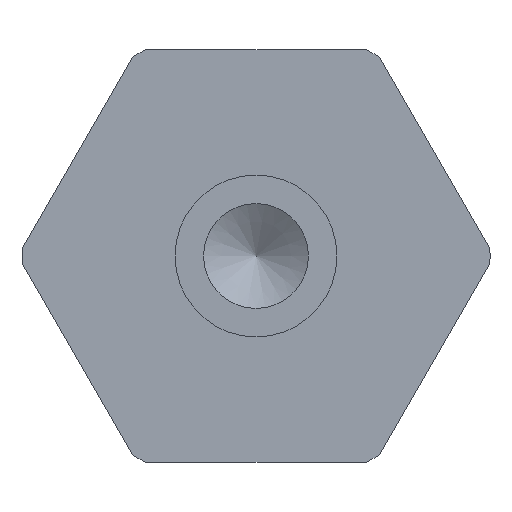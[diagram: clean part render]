
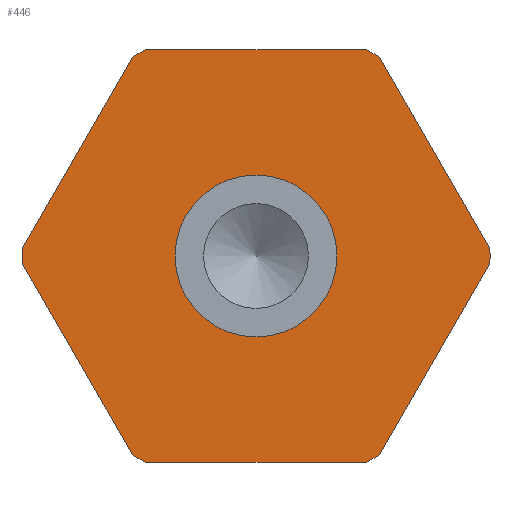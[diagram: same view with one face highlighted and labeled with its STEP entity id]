
A CAD part, left-side view. The second image highlights one B-rep face of the part: STEP entity #446.
In plain terms, the highlighted planar face has unit normal (-1, 0, 0).
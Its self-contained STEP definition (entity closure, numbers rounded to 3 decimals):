
#19=LINE($,#711,#43);
#22=LINE($,#717,#46);
#25=LINE($,#723,#49);
#28=LINE($,#729,#52);
#31=LINE($,#735,#55);
#33=LINE($,#743,#57);
#43=VECTOR($,#567,3.394);
#46=VECTOR($,#572,3.394);
#49=VECTOR($,#577,3.394);
#52=VECTOR($,#582,3.394);
#55=VECTOR($,#587,3.394);
#57=VECTOR($,#595,3.394);
#67=PLANE($,#489);
#79=FACE_BOUND($,#147,.T.);
#80=FACE_BOUND($,#148,.T.);
#147=EDGE_LOOP($,(#339));
#148=EDGE_LOOP($,(#340,#341,#342,#343,#344,#345,#346,#347,#348,#349,#350,
#351));
#191=CIRCLE($,#490,1.245);
#192=CIRCLE($,#491,3.6);
#193=CIRCLE($,#492,3.6);
#194=CIRCLE($,#493,3.6);
#195=CIRCLE($,#494,3.6);
#196=CIRCLE($,#495,3.6);
#197=CIRCLE($,#496,3.6);
#225=VERTEX_POINT($,#708);
#226=VERTEX_POINT($,#710);
#227=VERTEX_POINT($,#714);
#228=VERTEX_POINT($,#716);
#229=VERTEX_POINT($,#720);
#230=VERTEX_POINT($,#722);
#231=VERTEX_POINT($,#726);
#232=VERTEX_POINT($,#728);
#233=VERTEX_POINT($,#732);
#234=VERTEX_POINT($,#734);
#235=VERTEX_POINT($,#738);
#236=VERTEX_POINT($,#740);
#237=VERTEX_POINT($,#742);
#266=EDGE_CURVE($,#226,#225,#19,.T.);
#269=EDGE_CURVE($,#228,#227,#22,.T.);
#272=EDGE_CURVE($,#230,#229,#25,.T.);
#275=EDGE_CURVE($,#232,#231,#28,.T.);
#278=EDGE_CURVE($,#234,#233,#31,.T.);
#280=EDGE_CURVE($,#235,#235,#191,.T.);
#281=EDGE_CURVE($,#225,#236,#192,.T.);
#282=EDGE_CURVE($,#236,#237,#33,.T.);
#283=EDGE_CURVE($,#237,#234,#193,.T.);
#284=EDGE_CURVE($,#233,#232,#194,.T.);
#285=EDGE_CURVE($,#231,#230,#195,.T.);
#286=EDGE_CURVE($,#229,#228,#196,.T.);
#287=EDGE_CURVE($,#227,#226,#197,.T.);
#339=ORIENTED_EDGE($,*,*,#280,.F.);
#340=ORIENTED_EDGE($,*,*,#266,.T.);
#341=ORIENTED_EDGE($,*,*,#281,.T.);
#342=ORIENTED_EDGE($,*,*,#282,.T.);
#343=ORIENTED_EDGE($,*,*,#283,.T.);
#344=ORIENTED_EDGE($,*,*,#278,.T.);
#345=ORIENTED_EDGE($,*,*,#284,.T.);
#346=ORIENTED_EDGE($,*,*,#275,.T.);
#347=ORIENTED_EDGE($,*,*,#285,.T.);
#348=ORIENTED_EDGE($,*,*,#272,.T.);
#349=ORIENTED_EDGE($,*,*,#286,.T.);
#350=ORIENTED_EDGE($,*,*,#269,.T.);
#351=ORIENTED_EDGE($,*,*,#287,.T.);
#446=ADVANCED_FACE($,(#79,#80),#67,.T.);
#489=AXIS2_PLACEMENT_3D($,#737,#589,#590);
#490=AXIS2_PLACEMENT_3D($,#739,#591,#592);
#491=AXIS2_PLACEMENT_3D($,#741,#593,#594);
#492=AXIS2_PLACEMENT_3D($,#744,#596,#597);
#493=AXIS2_PLACEMENT_3D($,#745,#598,#599);
#494=AXIS2_PLACEMENT_3D($,#746,#600,#601);
#495=AXIS2_PLACEMENT_3D($,#747,#602,#603);
#496=AXIS2_PLACEMENT_3D($,#748,#604,#605);
#567=DIRECTION($,(0.,1.,0.));
#572=DIRECTION($,(0.,0.5,0.866));
#577=DIRECTION($,(0.,-0.5,0.866));
#582=DIRECTION($,(0.,-1.,0.));
#587=DIRECTION($,(0.,-0.5,-0.866));
#589=DIRECTION('center_axis',(-1.,0.,0.));
#590=DIRECTION('ref_axis',(0.,-0.866,-0.5));
#591=DIRECTION('center_axis',(-1.,0.,0.));
#592=DIRECTION('ref_axis',(0.,-0.5,0.866));
#593=DIRECTION('center_axis',(-1.,0.,0.));
#594=DIRECTION('ref_axis',(0.,-0.5,0.866));
#595=DIRECTION($,(0.,0.5,-0.866));
#596=DIRECTION('center_axis',(-1.,0.,0.));
#597=DIRECTION('ref_axis',(0.,-0.5,0.866));
#598=DIRECTION('center_axis',(-1.,0.,0.));
#599=DIRECTION('ref_axis',(0.,-0.5,0.866));
#600=DIRECTION('center_axis',(-1.,0.,0.));
#601=DIRECTION('ref_axis',(0.,-0.5,0.866));
#602=DIRECTION('center_axis',(-1.,0.,0.));
#603=DIRECTION('ref_axis',(0.,-0.5,0.866));
#604=DIRECTION('center_axis',(-1.,0.,0.));
#605=DIRECTION('ref_axis',(0.,-0.5,0.866));
#708=CARTESIAN_POINT('',(-15.281,3.832,3.175));
#710=CARTESIAN_POINT('',(-15.281,0.439,3.175));
#711=CARTESIAN_POINT($,(-15.281,1.534,3.175));
#714=CARTESIAN_POINT('',(-15.281,0.234,3.057));
#716=CARTESIAN_POINT('',(-15.281,-1.463,0.118));
#717=CARTESIAN_POINT($,(-15.281,-0.309,2.116));
#720=CARTESIAN_POINT('',(-15.281,-1.463,-0.118));
#722=CARTESIAN_POINT('',(-15.281,0.234,-3.057));
#723=CARTESIAN_POINT($,(-15.281,-1.222,-0.535));
#726=CARTESIAN_POINT('',(-15.281,0.439,-3.175));
#728=CARTESIAN_POINT('',(-15.281,3.832,-3.175));
#729=CARTESIAN_POINT($,(-15.281,1.526,-3.175));
#732=CARTESIAN_POINT('',(-15.281,4.037,-3.057));
#734=CARTESIAN_POINT('',(-15.281,5.734,-0.118));
#735=CARTESIAN_POINT($,(-15.281,5.186,-1.067));
#737=CARTESIAN_POINT('Origin',(-15.281,0.924,2.098));
#738=CARTESIAN_POINT('',(-15.281,1.513,1.078));
#739=CARTESIAN_POINT('Origin',(-15.281,2.135,0.));
#740=CARTESIAN_POINT('',(-15.281,4.037,3.057));
#741=CARTESIAN_POINT('Origin',(-15.281,2.135,0.));
#742=CARTESIAN_POINT('',(-15.281,5.734,0.118));
#743=CARTESIAN_POINT($,(-15.281,4.282,2.633));
#744=CARTESIAN_POINT('Origin',(-15.281,2.135,0.));
#745=CARTESIAN_POINT('Origin',(-15.281,2.135,0.));
#746=CARTESIAN_POINT('Origin',(-15.281,2.135,0.));
#747=CARTESIAN_POINT('Origin',(-15.281,2.135,0.));
#748=CARTESIAN_POINT('Origin',(-15.281,2.135,0.));
